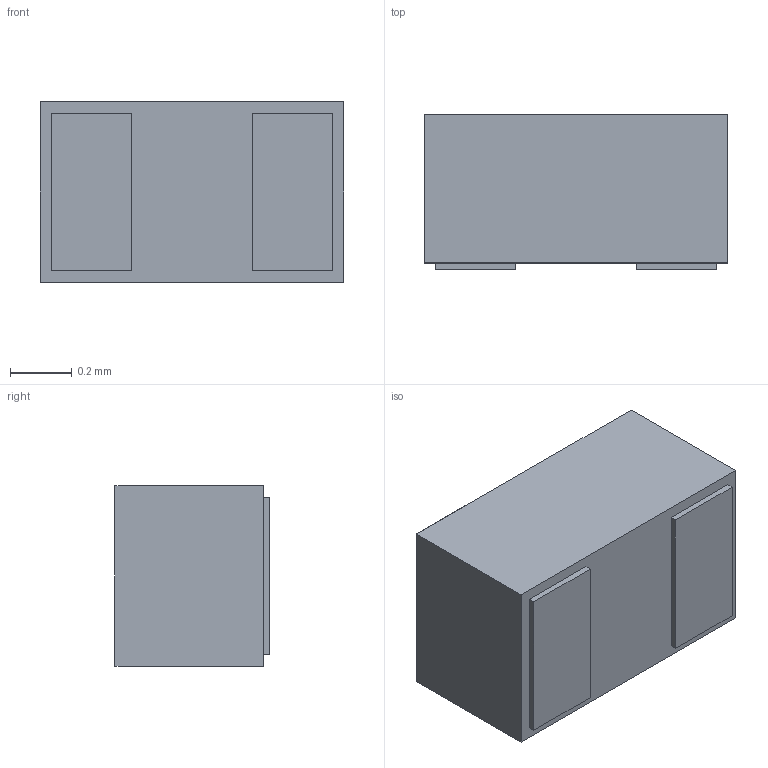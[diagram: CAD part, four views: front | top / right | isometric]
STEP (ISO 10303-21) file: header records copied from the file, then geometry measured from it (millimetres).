
FILE_DESCRIPTION (( 'STEP AP214' ), '1' );
FILE_NAME ( 'DIODFN2_98X58X50L26X51.STEP', '2021-10-06T06:49:13', ( '' ), ( '' ), '', '©2017 PCB Libraries, Inc.', '' );
FILE_SCHEMA (( 'AUTOMOTIVE_DESIGN' ));
Length unit declared in the file: millimetre
Products named in the file (1): DIODFN2_98X58X50L26X51
Bounding box: 0.98 x 0.5 x 0.58 mm (x, y, z)
Volume: 0.3 mm3; surface area: 3.5 mm2
Topology: 4 solids, 4 shells, 24 faces, 48 edges, 32 vertices
Faces by surface type: plane 24
Entity records: 733 total; most frequent: CARTESIAN_POINT 105, DIRECTION 98, ORIENTED_EDGE 96, VECTOR 48, LINE 48, EDGE_CURVE 48, VERTEX_POINT 32, STYLED_ITEM 29
